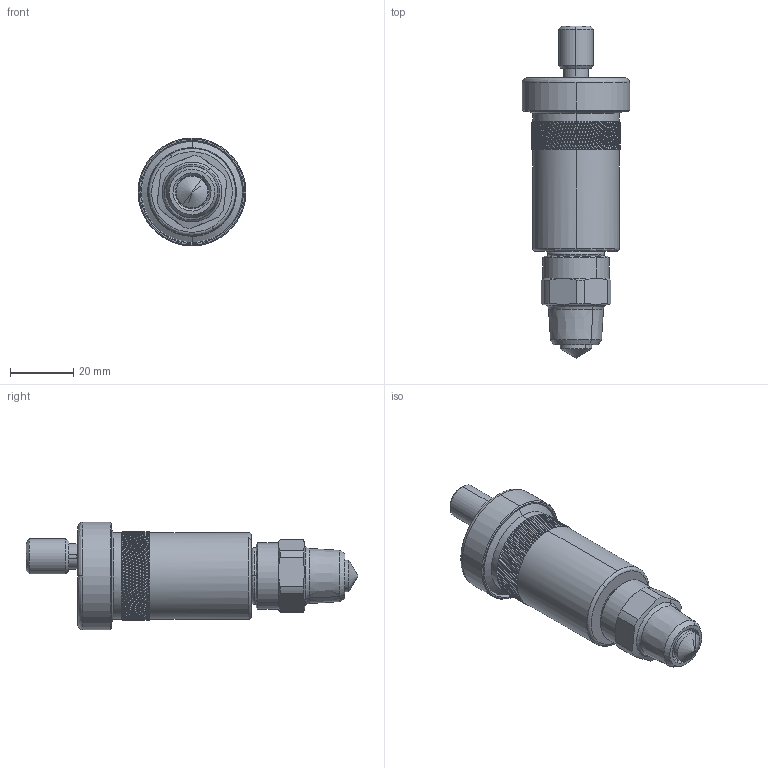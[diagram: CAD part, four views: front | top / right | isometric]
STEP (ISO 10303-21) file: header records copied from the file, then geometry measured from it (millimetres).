
FILE_DESCRIPTION (( 'STEP AP214' ), '1' );
FILE_NAME ('7773561.STEP', '2022-04-20T10:13:49', ( '' ), ( '' ), 'SwSTEP 2.0', 'SolidWorks 2021', '' );
FILE_SCHEMA (( 'AUTOMOTIVE_DESIGN' ));
Length unit declared in the file: millimetre
Products named in the file (11): Schraubkappe VG8 (Schnellentl_X_FCfter) blau_05 00 280000; MONTAGEVENTIL_05_00_250401; BG_05 00 25 06; MUTTER; Ventilst_X_F6_X_DFel SE _X_F814,8x30_05 00 250503; Deckel Schnellentl_X_FCfter_05 00 280011; Geh_X_E4use Schnellentl_X_FCfter_05 00 210013; O-RING_O_RING; 7773561; Schnellentl_X_FCfter Ms G3_8_05 00 21 01
Assembly tree (10 placements, depth 4):
  7773561
    Schnellentl_X_FCfter Ms G3_8_05 00 21 01
      Schraubkappe VG8 (Schnellentl_X_FCfter) blau_05 00 280000
      MUTTER
      O-RING_O_RING
      Geh_X_E4use Schnellentl_X_FCfter_05 00 210013
      Deckel Schnellentl_X_FCfter_05 00 280011
    BG_05 00 25 06
      MONTAGEVENTIL_05_00_250401
      Ventilst_X_F6_X_DFel SE _X_F814,8x30_05 00 250503
        Ventilst_X_F6_X_DFel SE _X_F814,8x30_05 00 250503
Bounding box: 34 x 104.64 x 34 mm (x, y, z)
Volume: 15704.1 mm3; surface area: 22023.1 mm2
Topology: 6 solids, 7 shells, 1242 faces, 3141 edges, 2056 vertices
Faces by surface type: plane 392, cylinder 325, cone 273, bspline 252
Entity records: 59691 total; most frequent: CARTESIAN_POINT 18510, ORIENTED_EDGE 6268, DIRECTION 4537, EDGE_CURVE 3138, VERTEX_POINT 2056, AXIS2_PLACEMENT_3D 1739, EDGE_LOOP 1410, B_SPLINE_CURVE_WITH_KNOTS 1334
